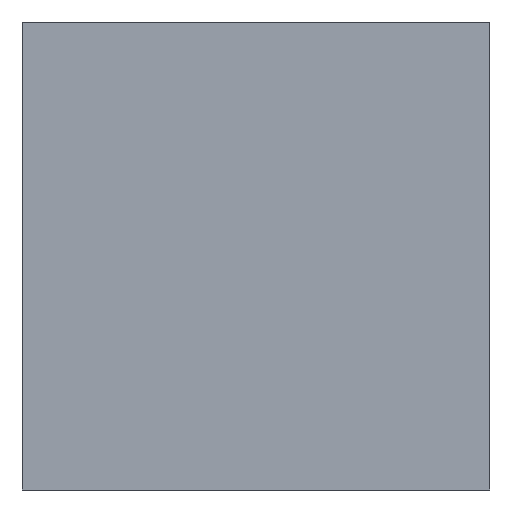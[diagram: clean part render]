
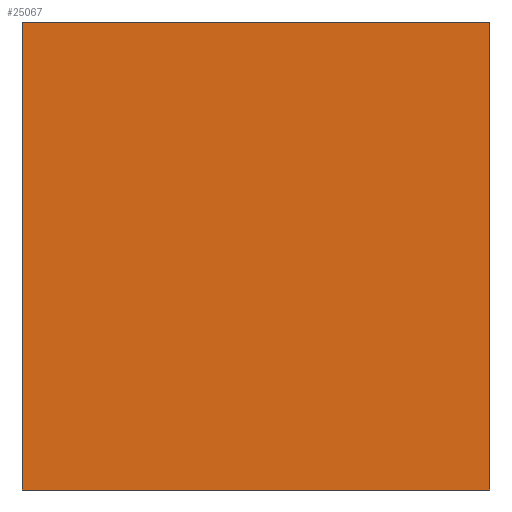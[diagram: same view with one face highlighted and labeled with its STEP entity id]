
A CAD part, left-side view. The second image highlights one B-rep face of the part: STEP entity #25067.
In plain terms, the highlighted planar face has unit normal (-1, 0, 0).
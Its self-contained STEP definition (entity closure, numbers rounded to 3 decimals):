
#168 = LINE ( 'NONE', #3331, #2725 ) ;
#354 = EDGE_CURVE ( 'NONE', #9271, #1566, #24535, .T. ) ;
#570 = PLANE ( 'NONE',  #1579 ) ;
#1110 = LINE ( 'NONE', #26099, #22691 ) ;
#1566 = VERTEX_POINT ( 'NONE', #12798 ) ;
#1579 = AXIS2_PLACEMENT_3D ( 'NONE', #23205, #23112, #6685 ) ;
#1982 = VECTOR ( 'NONE', #23674, 1000. ) ;
#2725 = VECTOR ( 'NONE', #21565, 1000. ) ;
#3331 = CARTESIAN_POINT ( 'NONE',  ( -105., -157.4, 154.6 ) ) ;
#3396 = EDGE_LOOP ( 'NONE', ( #8608, #20321, #18167, #7547 ) ) ;
#3747 = LINE ( 'NONE', #25030, #17757 ) ;
#5077 = CARTESIAN_POINT ( 'NONE',  ( -105., -106.4, 87.6 ) ) ;
#6553 = CARTESIAN_POINT ( 'NONE',  ( -105., -106.4, 138.6 ) ) ;
#6685 = DIRECTION ( 'NONE',  ( 0., 1., 0. ) ) ;
#6999 = DIRECTION ( 'NONE',  ( 0., 1., 0. ) ) ;
#7083 = EDGE_CURVE ( 'NONE', #1566, #17000, #168, .T. ) ;
#7547 = ORIENTED_EDGE ( 'NONE', *, *, #354, .F. ) ;
#8608 = ORIENTED_EDGE ( 'NONE', *, *, #25426, .F. ) ;
#8662 = VERTEX_POINT ( 'NONE', #5077 ) ;
#9271 = VERTEX_POINT ( 'NONE', #6553 ) ;
#12008 = DIRECTION ( 'NONE',  ( 0., 0., 1. ) ) ;
#12798 = CARTESIAN_POINT ( 'NONE',  ( -105., -157.4, 138.6 ) ) ;
#16088 = CARTESIAN_POINT ( 'NONE',  ( -105., -157.4, 87.6 ) ) ;
#17000 = VERTEX_POINT ( 'NONE', #16088 ) ;
#17521 = CARTESIAN_POINT ( 'NONE',  ( -105., -80.1, 138.6 ) ) ;
#17757 = VECTOR ( 'NONE', #6999, 1000. ) ;
#17941 = FACE_OUTER_BOUND ( 'NONE', #3396, .T. ) ;
#18167 = ORIENTED_EDGE ( 'NONE', *, *, #7083, .F. ) ;
#20321 = ORIENTED_EDGE ( 'NONE', *, *, #20485, .F. ) ;
#20485 = EDGE_CURVE ( 'NONE', #17000, #8662, #3747, .T. ) ;
#21565 = DIRECTION ( 'NONE',  ( 0., 0., -1. ) ) ;
#22691 = VECTOR ( 'NONE', #12008, 1000. ) ;
#23112 = DIRECTION ( 'NONE',  ( 1., 0., 0. ) ) ;
#23205 = CARTESIAN_POINT ( 'NONE',  ( -105., 157.4, 154.6 ) ) ;
#23674 = DIRECTION ( 'NONE',  ( 0., -1., 0. ) ) ;
#24535 = LINE ( 'NONE', #17521, #1982 ) ;
#25030 = CARTESIAN_POINT ( 'NONE',  ( -105., -106.4, 87.6 ) ) ;
#25067 = ADVANCED_FACE ( 'NONE', ( #17941 ), #570, .F. ) ;
#25426 = EDGE_CURVE ( 'NONE', #8662, #9271, #1110, .T. ) ;
#26099 = CARTESIAN_POINT ( 'NONE',  ( -105., -106.4, 87.6 ) ) ;
